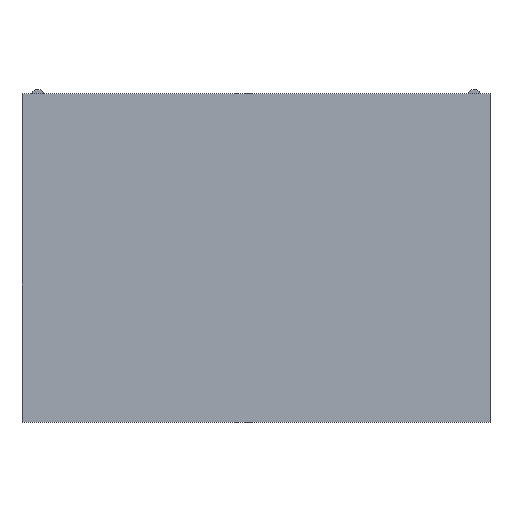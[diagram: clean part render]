
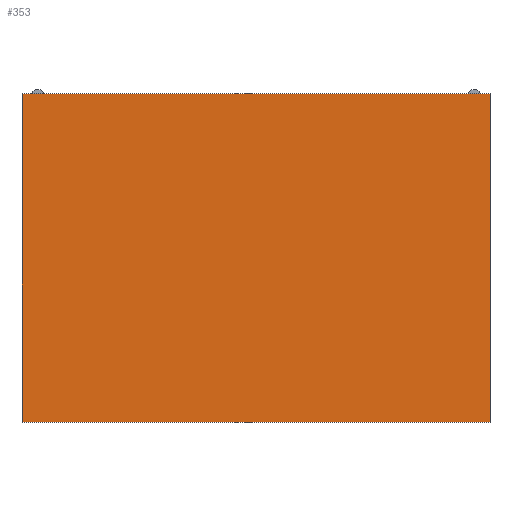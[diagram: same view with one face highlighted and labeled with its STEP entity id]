
A CAD part, top view. The second image highlights one B-rep face of the part: STEP entity #353.
In plain terms, the highlighted planar face has unit normal (0, 0, 1).
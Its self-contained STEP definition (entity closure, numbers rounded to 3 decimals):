
#39 = VERTEX_POINT('',#40);
#40 = CARTESIAN_POINT('',(-13.37,50.2,8.9));
#47 = PLANE('',#48);
#48 = AXIS2_PLACEMENT_3D('',#49,#50,#51);
#49 = CARTESIAN_POINT('',(-13.37,50.2,0.));
#50 = DIRECTION('',(0.,1.,0.));
#51 = DIRECTION('',(1.,0.,0.));
#59 = PLANE('',#60);
#60 = AXIS2_PLACEMENT_3D('',#61,#62,#63);
#61 = CARTESIAN_POINT('',(-13.37,-2.5,0.));
#62 = DIRECTION('',(-1.,0.,0.));
#63 = DIRECTION('',(0.,1.,0.));
#71 = EDGE_CURVE('',#39,#72,#74,.T.);
#72 = VERTEX_POINT('',#73);
#73 = CARTESIAN_POINT('',(61.63,50.2,8.9));
#74 = SURFACE_CURVE('',#75,(#79,#86),.PCURVE_S1.);
#75 = LINE('',#76,#77);
#76 = CARTESIAN_POINT('',(-13.37,50.2,8.9));
#77 = VECTOR('',#78,1.);
#78 = DIRECTION('',(1.,0.,0.));
#79 = PCURVE('',#47,#80);
#80 = DEFINITIONAL_REPRESENTATION('',(#81),#85);
#81 = LINE('',#82,#83);
#82 = CARTESIAN_POINT('',(0.,-8.9));
#83 = VECTOR('',#84,1.);
#84 = DIRECTION('',(1.,0.));
#85 = ( GEOMETRIC_REPRESENTATION_CONTEXT(2) 
PARAMETRIC_REPRESENTATION_CONTEXT() REPRESENTATION_CONTEXT('2D SPACE',''
  ) );
#86 = PCURVE('',#87,#92);
#87 = PLANE('',#88);
#88 = AXIS2_PLACEMENT_3D('',#89,#90,#91);
#89 = CARTESIAN_POINT('',(24.13,23.85,8.9));
#90 = DIRECTION('',(0.,0.,-1.));
#91 = DIRECTION('',(0.,-1.,0.));
#92 = DEFINITIONAL_REPRESENTATION('',(#93),#97);
#93 = LINE('',#94,#95);
#94 = CARTESIAN_POINT('',(-26.35,37.5));
#95 = VECTOR('',#96,1.);
#96 = DIRECTION('',(0.,-1.));
#97 = ( GEOMETRIC_REPRESENTATION_CONTEXT(2) 
PARAMETRIC_REPRESENTATION_CONTEXT() REPRESENTATION_CONTEXT('2D SPACE',''
  ) );
#115 = PLANE('',#116);
#116 = AXIS2_PLACEMENT_3D('',#117,#118,#119);
#117 = CARTESIAN_POINT('',(61.63,50.2,0.));
#118 = DIRECTION('',(1.,0.,-0.));
#119 = DIRECTION('',(0.,-1.,0.));
#157 = EDGE_CURVE('',#72,#158,#160,.T.);
#158 = VERTEX_POINT('',#159);
#159 = CARTESIAN_POINT('',(61.63,-2.5,8.9));
#160 = SURFACE_CURVE('',#161,(#165,#172),.PCURVE_S1.);
#161 = LINE('',#162,#163);
#162 = CARTESIAN_POINT('',(61.63,50.2,8.9));
#163 = VECTOR('',#164,1.);
#164 = DIRECTION('',(0.,-1.,0.));
#165 = PCURVE('',#115,#166);
#166 = DEFINITIONAL_REPRESENTATION('',(#167),#171);
#167 = LINE('',#168,#169);
#168 = CARTESIAN_POINT('',(0.,-8.9));
#169 = VECTOR('',#170,1.);
#170 = DIRECTION('',(1.,0.));
#171 = ( GEOMETRIC_REPRESENTATION_CONTEXT(2) 
PARAMETRIC_REPRESENTATION_CONTEXT() REPRESENTATION_CONTEXT('2D SPACE',''
  ) );
#172 = PCURVE('',#87,#173);
#173 = DEFINITIONAL_REPRESENTATION('',(#174),#178);
#174 = LINE('',#175,#176);
#175 = CARTESIAN_POINT('',(-26.35,-37.5));
#176 = VECTOR('',#177,1.);
#177 = DIRECTION('',(1.,0.));
#178 = ( GEOMETRIC_REPRESENTATION_CONTEXT(2) 
PARAMETRIC_REPRESENTATION_CONTEXT() REPRESENTATION_CONTEXT('2D SPACE',''
  ) );
#196 = PLANE('',#197);
#197 = AXIS2_PLACEMENT_3D('',#198,#199,#200);
#198 = CARTESIAN_POINT('',(61.63,-2.5,0.));
#199 = DIRECTION('',(0.,-1.,0.));
#200 = DIRECTION('',(-1.,0.,0.));
#233 = EDGE_CURVE('',#158,#234,#236,.T.);
#234 = VERTEX_POINT('',#235);
#235 = CARTESIAN_POINT('',(-13.37,-2.5,8.9));
#236 = SURFACE_CURVE('',#237,(#241,#248),.PCURVE_S1.);
#237 = LINE('',#238,#239);
#238 = CARTESIAN_POINT('',(61.63,-2.5,8.9));
#239 = VECTOR('',#240,1.);
#240 = DIRECTION('',(-1.,0.,0.));
#241 = PCURVE('',#196,#242);
#242 = DEFINITIONAL_REPRESENTATION('',(#243),#247);
#243 = LINE('',#244,#245);
#244 = CARTESIAN_POINT('',(0.,-8.9));
#245 = VECTOR('',#246,1.);
#246 = DIRECTION('',(1.,0.));
#247 = ( GEOMETRIC_REPRESENTATION_CONTEXT(2) 
PARAMETRIC_REPRESENTATION_CONTEXT() REPRESENTATION_CONTEXT('2D SPACE',''
  ) );
#248 = PCURVE('',#87,#249);
#249 = DEFINITIONAL_REPRESENTATION('',(#250),#254);
#250 = LINE('',#251,#252);
#251 = CARTESIAN_POINT('',(26.35,-37.5));
#252 = VECTOR('',#253,1.);
#253 = DIRECTION('',(-0.,1.));
#254 = ( GEOMETRIC_REPRESENTATION_CONTEXT(2) 
PARAMETRIC_REPRESENTATION_CONTEXT() REPRESENTATION_CONTEXT('2D SPACE',''
  ) );
#304 = EDGE_CURVE('',#234,#39,#305,.T.);
#305 = SURFACE_CURVE('',#306,(#310,#317),.PCURVE_S1.);
#306 = LINE('',#307,#308);
#307 = CARTESIAN_POINT('',(-13.37,-2.5,8.9));
#308 = VECTOR('',#309,1.);
#309 = DIRECTION('',(0.,1.,0.));
#310 = PCURVE('',#59,#311);
#311 = DEFINITIONAL_REPRESENTATION('',(#312),#316);
#312 = LINE('',#313,#314);
#313 = CARTESIAN_POINT('',(0.,-8.9));
#314 = VECTOR('',#315,1.);
#315 = DIRECTION('',(1.,0.));
#316 = ( GEOMETRIC_REPRESENTATION_CONTEXT(2) 
PARAMETRIC_REPRESENTATION_CONTEXT() REPRESENTATION_CONTEXT('2D SPACE',''
  ) );
#317 = PCURVE('',#87,#318);
#318 = DEFINITIONAL_REPRESENTATION('',(#319),#323);
#319 = LINE('',#320,#321);
#320 = CARTESIAN_POINT('',(26.35,37.5));
#321 = VECTOR('',#322,1.);
#322 = DIRECTION('',(-1.,0.));
#323 = ( GEOMETRIC_REPRESENTATION_CONTEXT(2) 
PARAMETRIC_REPRESENTATION_CONTEXT() REPRESENTATION_CONTEXT('2D SPACE',''
  ) );
#353 = ADVANCED_FACE('',(#354),#87,.F.);
#354 = FACE_BOUND('',#355,.F.);
#355 = EDGE_LOOP('',(#356,#357,#358,#359));
#356 = ORIENTED_EDGE('',*,*,#71,.T.);
#357 = ORIENTED_EDGE('',*,*,#157,.T.);
#358 = ORIENTED_EDGE('',*,*,#233,.T.);
#359 = ORIENTED_EDGE('',*,*,#304,.T.);
